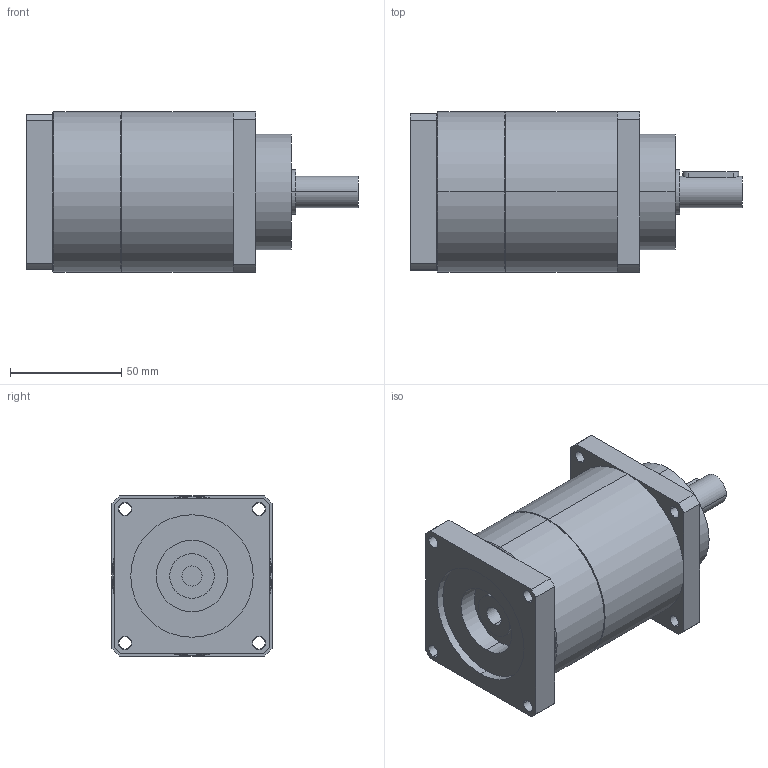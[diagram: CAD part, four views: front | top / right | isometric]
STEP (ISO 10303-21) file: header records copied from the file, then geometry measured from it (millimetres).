
FILE_DESCRIPTION(('CoCreate Modeling STEP Export'),'2;1');
FILE_NAME('GPT75_ig-9-12-16-20-25-28-35-40-50-70-100_14_B5T_9_P25.stp','2014-08-27T13:44:14',(''),(''),'CoCreate Modeling STEP processor for AP214 (Solid Model)','CoCreate Modeling 16.00C 25-Feb-2009 (C) Parametric Technology GmbH','');
FILE_SCHEMA(('AUTOMOTIVE_DESIGN { 1 0 10303 214 1 1 1 1 }'));
Length unit declared in the file: millimetre
Products named in the file (2): GPT75_ig-9-12-16-20-25-28-35-40-50-70-100_14_B5T_9_P25
Assembly tree (1 placements, depth 2):
  GPT75_ig-9-12-16-20-25-28-35-40-50-70-100_14_B5T_9_P25
    GPT75_ig-9-12-16-20-25-28-35-40-50-70-100_14_B5T_9_P25
Bounding box: 149 x 72 x 72 mm (x, y, z)
Volume: 460577.5 mm3; surface area: 44730.5 mm2
Topology: 1 solids, 1 shells, 84 faces, 210 edges, 137 vertices
Faces by surface type: cylinder 46, plane 34, cone 4
Entity records: 2588 total; most frequent: CARTESIAN_POINT 732, ORIENTED_EDGE 420, DIRECTION 326, EDGE_CURVE 210, VERTEX_POINT 137, AXIS2_PLACEMENT_3D 119, EDGE_LOOP 109, VECTOR 88
